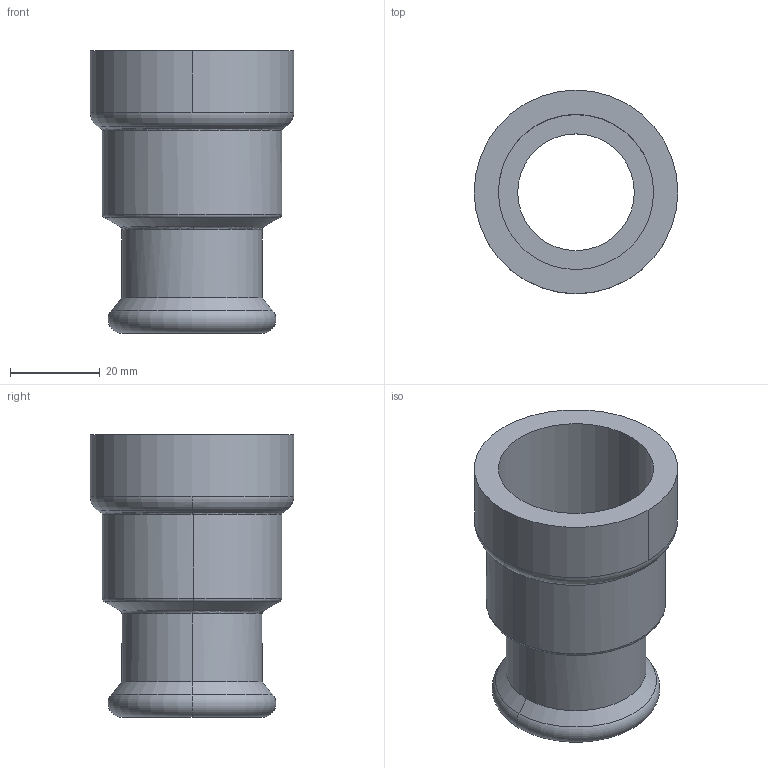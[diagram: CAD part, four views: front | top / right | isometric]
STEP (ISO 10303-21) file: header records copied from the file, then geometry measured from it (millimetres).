
FILE_DESCRIPTION(('Creo Elements/Direct Modeling STEP Export'),'2;1');
FILE_NAME('C9441_1_28.stp','2020-07-20T13:56:51',(''),(''),'PTC Creo Elements/Direct Modeling STEP processor for AP214 (Solid Model)','PTC Creo Elements/Direct Modeling 19.0C 15-Aug-2015 (C) Parametric Technology GmbH','');
FILE_SCHEMA(('AUTOMOTIVE_DESIGN { 1 0 10303 214 1 1 1 1 }'));
Length unit declared in the file: millimetre
Products named in the file (1): C9441_1_28
Bounding box: 45.4 x 45.4 x 62.96 mm (x, y, z)
Volume: 23765.6 mm3; surface area: 15944.7 mm2
Topology: 1 solids, 1 shells, 32 faces, 73 edges, 45 vertices
Faces by surface type: cylinder 12, torus 10, cone 6, plane 4
Entity records: 815 total; most frequent: ORIENTED_EDGE 146, DIRECTION 140, CARTESIAN_POINT 124, EDGE_CURVE 73, AXIS2_PLACEMENT_3D 61, VERTEX_POINT 45, EDGE_LOOP 36, FACE_OUTER_BOUND 32
